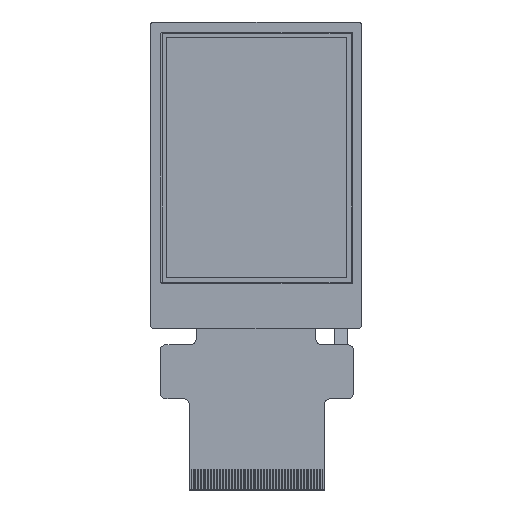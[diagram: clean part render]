
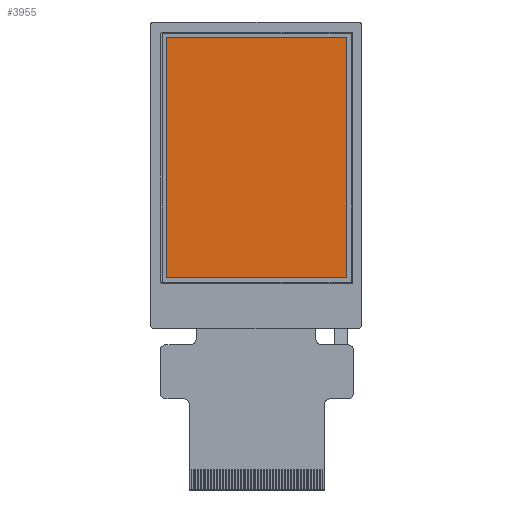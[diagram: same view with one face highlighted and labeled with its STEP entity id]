
A CAD part, top view. The second image highlights one B-rep face of the part: STEP entity #3955.
In plain terms, the highlighted planar face has unit normal (0, 0, 1).
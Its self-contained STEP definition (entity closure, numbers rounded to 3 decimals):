
#217 = DIRECTION ( 'NONE',  ( 0., 0., 1. ) ) ;
#449 = CARTESIAN_POINT ( 'NONE',  ( 2.75, -44.25, 2.15 ) ) ;
#1385 = DIRECTION ( 'NONE',  ( 0., -1., 0. ) ) ;
#1921 = CARTESIAN_POINT ( 'NONE',  ( 33.35, -2.7, 2.15 ) ) ;
#2125 = LINE ( 'NONE', #11809, #11584 ) ;
#2161 = EDGE_CURVE ( 'NONE', #10917, #8165, #2125, .T. ) ;
#2922 = VERTEX_POINT ( 'NONE', #7121 ) ;
#3170 = VECTOR ( 'NONE', #5903, 1000. ) ;
#3233 = VECTOR ( 'NONE', #12529, 1000. ) ;
#3283 = EDGE_LOOP ( 'NONE', ( #6036, #12442, #4547, #11396 ) ) ;
#3690 = EDGE_CURVE ( 'NONE', #13022, #10917, #8966, .T. ) ;
#3955 = ADVANCED_FACE ( 'NONE', ( #10008 ), #5552, .T. ) ;
#4088 = DIRECTION ( 'NONE',  ( -1., 0., 0. ) ) ;
#4547 = ORIENTED_EDGE ( 'NONE', *, *, #3690, .F. ) ;
#4759 = CARTESIAN_POINT ( 'NONE',  ( 33.35, -44.25, 2.15 ) ) ;
#5552 = PLANE ( 'NONE',  #9327 ) ;
#5744 = CARTESIAN_POINT ( 'NONE',  ( 34.1, -44.25, 2.15 ) ) ;
#5835 = LINE ( 'NONE', #449, #3170 ) ;
#5903 = DIRECTION ( 'NONE',  ( 0., 1., 0. ) ) ;
#6036 = ORIENTED_EDGE ( 'NONE', *, *, #10464, .F. ) ;
#7121 = CARTESIAN_POINT ( 'NONE',  ( 2.75, -2.7, 2.15 ) ) ;
#8165 = VERTEX_POINT ( 'NONE', #12765 ) ;
#8816 = DIRECTION ( 'NONE',  ( 1., 0., 0. ) ) ;
#8966 = LINE ( 'NONE', #4759, #13593 ) ;
#9327 = AXIS2_PLACEMENT_3D ( 'NONE', #5744, #217, #8816 ) ;
#10008 = FACE_OUTER_BOUND ( 'NONE', #3283, .T. ) ;
#10464 = EDGE_CURVE ( 'NONE', #8165, #2922, #5835, .T. ) ;
#10917 = VERTEX_POINT ( 'NONE', #13314 ) ;
#11396 = ORIENTED_EDGE ( 'NONE', *, *, #12895, .F. ) ;
#11584 = VECTOR ( 'NONE', #4088, 1000. ) ;
#11809 = CARTESIAN_POINT ( 'NONE',  ( 34.1, -43.5, 2.15 ) ) ;
#12311 = LINE ( 'NONE', #12387, #3233 ) ;
#12387 = CARTESIAN_POINT ( 'NONE',  ( 34.1, -2.7, 2.15 ) ) ;
#12442 = ORIENTED_EDGE ( 'NONE', *, *, #2161, .F. ) ;
#12529 = DIRECTION ( 'NONE',  ( 1., 0., 0. ) ) ;
#12765 = CARTESIAN_POINT ( 'NONE',  ( 2.75, -43.5, 2.15 ) ) ;
#12895 = EDGE_CURVE ( 'NONE', #2922, #13022, #12311, .T. ) ;
#13022 = VERTEX_POINT ( 'NONE', #1921 ) ;
#13314 = CARTESIAN_POINT ( 'NONE',  ( 33.35, -43.5, 2.15 ) ) ;
#13593 = VECTOR ( 'NONE', #1385, 1000. ) ;
